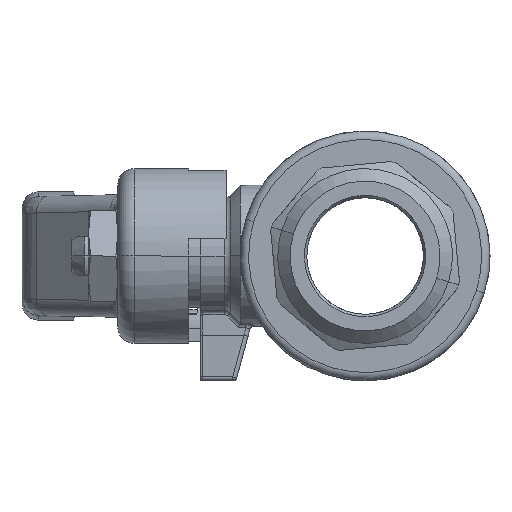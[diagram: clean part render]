
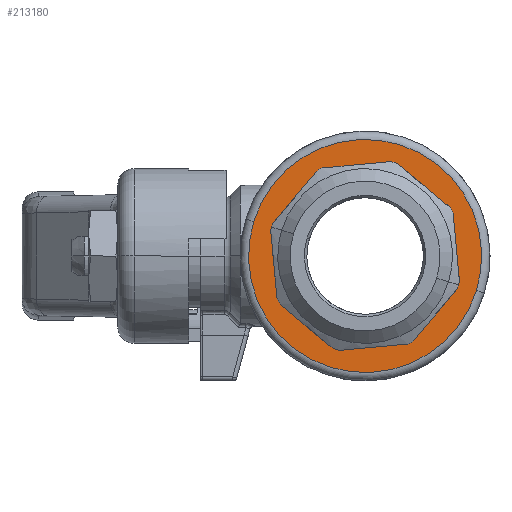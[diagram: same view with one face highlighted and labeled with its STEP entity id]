
A CAD part, left-side view. The second image highlights one B-rep face of the part: STEP entity #213180.
In plain terms, the highlighted planar face has unit normal (-1, 0, 0) as drawn and (1, 0, 0) by its records, which use the part's own axes.
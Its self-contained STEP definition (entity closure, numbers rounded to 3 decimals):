
#211730=CARTESIAN_POINT('',(16.25,13.374,
-4.14));
#211740=VERTEX_POINT('',#211730);
#211770=CARTESIAN_POINT('',(16.25,0.,
0.));
#211780=DIRECTION('',(1.,0.,0.));
#211790=DIRECTION('',(0.,-0.955,0.296));
#211800=AXIS2_PLACEMENT_3D('',#211770,#211780,#211790);
#211810=CIRCLE('',#211800,14.);
#211820=CARTESIAN_POINT('',(16.25,-13.374,
4.14));
#211830=VERTEX_POINT('',#211820);
#211840=EDGE_CURVE('',#211740,#211830,#211810,.T.);
#211970=CARTESIAN_POINT('',(16.25,-12.299,
3.807));
#211980=DIRECTION('',(-1.,0.,0.));
#211990=DIRECTION('',(0.,-0.955,0.296));
#212000=AXIS2_PLACEMENT_3D('',#211970,#211980,#211990);
#212010=PLANE('',#212000);
#212020=CARTESIAN_POINT('',(16.25,0.,
0.));
#212030=DIRECTION('',(1.,0.,0.));
#212040=DIRECTION('',(0.,-0.955,0.296));
#212050=AXIS2_PLACEMENT_3D('',#212020,#212030,#212040);
#212060=CIRCLE('',#212050,11.75);
#212070=CARTESIAN_POINT('',(16.25,11.102,
-3.849));
#212080=VERTEX_POINT('',#212070);
#212090=CARTESIAN_POINT('',(16.25,11.224,
-3.475));
#212100=VERTEX_POINT('',#212090);
#212110=EDGE_CURVE('',#212080,#212100,#212060,.T.);
#212120=ORIENTED_EDGE('',*,*,#212110,.F.);
#212130=CARTESIAN_POINT('',(16.25,11.334,
-3.097));
#212140=VERTEX_POINT('',#212130);
#212150=EDGE_CURVE('',#212100,#212140,#212060,.T.);
#212160=ORIENTED_EDGE('',*,*,#212150,.F.);
#212170=CARTESIAN_POINT('',(16.25,11.374,
-3.521));
#212180=DIRECTION('',(0.,0.092,
-0.996));
#212190=VECTOR('',#212180,1.);
#212200=LINE('',#212170,#212190);
#212210=CARTESIAN_POINT('',(16.25,10.572,
5.129));
#212220=VERTEX_POINT('',#212210);
#212230=EDGE_CURVE('',#212220,#212140,#212200,.T.);
#212240=ORIENTED_EDGE('',*,*,#212230,.T.);
#212250=CARTESIAN_POINT('',(16.25,10.205,
5.825));
#212260=VERTEX_POINT('',#212250);
#212270=EDGE_CURVE('',#212220,#212260,#212060,.T.);
#212280=ORIENTED_EDGE('',*,*,#212270,.F.);
#212290=CARTESIAN_POINT('',(16.25,3.521,
11.374));
#212300=DIRECTION('',(0.,0.769,
-0.639));
#212310=VECTOR('',#212300,1.);
#212320=LINE('',#212290,#212310);
#212330=CARTESIAN_POINT('',(16.25,3.849,
11.102));
#212340=VERTEX_POINT('',#212330);
#212350=EDGE_CURVE('',#212340,#212260,#212320,.T.);
#212360=ORIENTED_EDGE('',*,*,#212350,.T.);
#212370=CARTESIAN_POINT('',(16.25,3.097,
11.334));
#212380=VERTEX_POINT('',#212370);
#212390=EDGE_CURVE('',#212340,#212380,#212060,.T.);
#212400=ORIENTED_EDGE('',*,*,#212390,.F.);
#212410=CARTESIAN_POINT('',(16.25,3.521,
11.374));
#212420=DIRECTION('',(0.,0.996,
0.092));
#212430=VECTOR('',#212420,1.);
#212440=LINE('',#212410,#212430);
#212450=CARTESIAN_POINT('',(16.25,-5.129,
10.572));
#212460=VERTEX_POINT('',#212450);
#212470=EDGE_CURVE('',#212460,#212380,#212440,.T.);
#212480=ORIENTED_EDGE('',*,*,#212470,.T.);
#212490=CARTESIAN_POINT('',(16.25,-5.825,
10.205));
#212500=VERTEX_POINT('',#212490);
#212510=EDGE_CURVE('',#212460,#212500,#212060,.T.);
#212520=ORIENTED_EDGE('',*,*,#212510,.F.);
#212530=CARTESIAN_POINT('',(16.25,-11.374,
3.521));
#212540=DIRECTION('',(0.,0.639,0.769));
#212550=VECTOR('',#212540,1.);
#212560=LINE('',#212530,#212550);
#212570=CARTESIAN_POINT('',(16.25,-11.102,
3.849));
#212580=VERTEX_POINT('',#212570);
#212590=EDGE_CURVE('',#212580,#212500,#212560,.T.);
#212600=ORIENTED_EDGE('',*,*,#212590,.T.);
#212610=CARTESIAN_POINT('',(16.25,-11.224,
3.475));
#212620=VERTEX_POINT('',#212610);
#212630=EDGE_CURVE('',#212580,#212620,#212060,.T.);
#212640=ORIENTED_EDGE('',*,*,#212630,.F.);
#212650=CARTESIAN_POINT('',(16.25,-11.334,
3.097));
#212660=VERTEX_POINT('',#212650);
#212670=EDGE_CURVE('',#212620,#212660,#212060,.T.);
#212680=ORIENTED_EDGE('',*,*,#212670,.F.);
#212690=CARTESIAN_POINT('',(16.25,-11.374,
3.521));
#212700=DIRECTION('',(0.,-0.092,0.996));
#212710=VECTOR('',#212700,1.);
#212720=LINE('',#212690,#212710);
#212730=CARTESIAN_POINT('',(16.25,-10.572,
-5.129));
#212740=VERTEX_POINT('',#212730);
#212750=EDGE_CURVE('',#212740,#212660,#212720,.T.);
#212760=ORIENTED_EDGE('',*,*,#212750,.T.);
#212770=CARTESIAN_POINT('',(16.25,-10.205,
-5.825));
#212780=VERTEX_POINT('',#212770);
#212790=EDGE_CURVE('',#212740,#212780,#212060,.T.);
#212800=ORIENTED_EDGE('',*,*,#212790,.F.);
#212810=CARTESIAN_POINT('',(16.25,-3.521,
-11.374));
#212820=DIRECTION('',(0.,-0.769,0.639));
#212830=VECTOR('',#212820,1.);
#212840=LINE('',#212810,#212830);
#212850=CARTESIAN_POINT('',(16.25,-3.849,
-11.102));
#212860=VERTEX_POINT('',#212850);
#212870=EDGE_CURVE('',#212860,#212780,#212840,.T.);
#212880=ORIENTED_EDGE('',*,*,#212870,.T.);
#212890=CARTESIAN_POINT('',(16.25,-3.097,
-11.334));
#212900=VERTEX_POINT('',#212890);
#212910=EDGE_CURVE('',#212860,#212900,#212060,.T.);
#212920=ORIENTED_EDGE('',*,*,#212910,.F.);
#212930=CARTESIAN_POINT('',(16.25,-3.521,
-11.374));
#212940=DIRECTION('',(0.,-0.996,-0.092));
#212950=VECTOR('',#212940,1.);
#212960=LINE('',#212930,#212950);
#212970=CARTESIAN_POINT('',(16.25,5.129,
-10.572));
#212980=VERTEX_POINT('',#212970);
#212990=EDGE_CURVE('',#212980,#212900,#212960,.T.);
#213000=ORIENTED_EDGE('',*,*,#212990,.T.);
#213010=CARTESIAN_POINT('',(16.25,5.825,
-10.205));
#213020=VERTEX_POINT('',#213010);
#213030=EDGE_CURVE('',#212980,#213020,#212060,.T.);
#213040=ORIENTED_EDGE('',*,*,#213030,.F.);
#213050=CARTESIAN_POINT('',(16.25,11.374,
-3.521));
#213060=DIRECTION('',(0.,-0.639,
-0.769));
#213070=VECTOR('',#213060,1.);
#213080=LINE('',#213050,#213070);
#213090=EDGE_CURVE('',#212080,#213020,#213080,.T.);
#213100=ORIENTED_EDGE('',*,*,#213090,.T.);
#213110=EDGE_LOOP('',(#213100,#213040,#213000,#212920,#212880,#212800,
#212760,#212680,#212640,#212600,#212520,#212480,#212400,#212360,#212280,
#212240,#212160,#212120));
#213120=FACE_BOUND('',#213110,.T.);
#213130=EDGE_CURVE('',#211830,#211740,#211810,.T.);
#213140=ORIENTED_EDGE('',*,*,#213130,.T.);
#213150=ORIENTED_EDGE('',*,*,#211840,.T.);
#213160=EDGE_LOOP('',(#213150,#213140));
#213170=FACE_OUTER_BOUND('',#213160,.T.);
#213180=ADVANCED_FACE('',(#213120,#213170),#212010,.F.);
